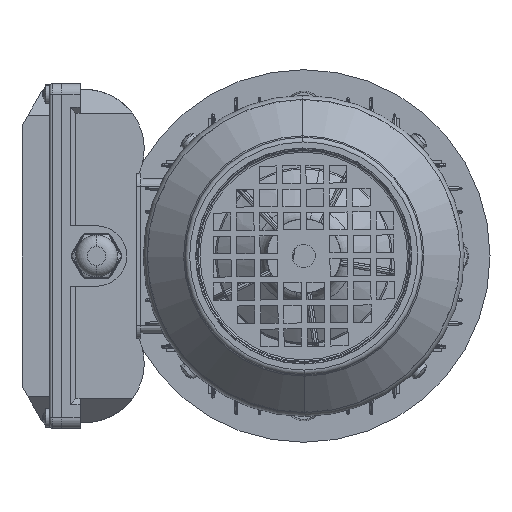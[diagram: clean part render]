
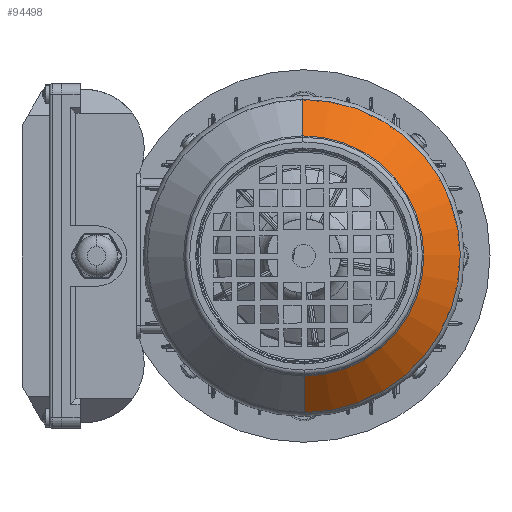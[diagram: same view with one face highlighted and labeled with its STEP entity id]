
A CAD part, left-side view. The second image highlights one B-rep face of the part: STEP entity #94498.
In plain terms, the highlighted conical face has half-angle 45 degrees and reference radius 51.586 mm.
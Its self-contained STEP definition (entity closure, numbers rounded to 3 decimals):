
#183 = EDGE_LOOP ( 'NONE', ( #42011, #35188, #23997, #37695 ) ) ;
#972 = CARTESIAN_POINT ( 'NONE',  ( 69.414, 0., 51.586 ) ) ;
#3485 = VERTEX_POINT ( 'NONE', #85109 ) ;
#3790 = DIRECTION ( 'NONE',  ( -1., 0., 0. ) ) ;
#4228 = DIRECTION ( 'NONE',  ( -1., 0., 0. ) ) ;
#5712 = VERTEX_POINT ( 'NONE', #90143 ) ;
#11128 = DIRECTION ( 'NONE',  ( -0.707, 0., 0.707 ) ) ;
#13077 = CARTESIAN_POINT ( 'NONE',  ( 69.414, 0., 0. ) ) ;
#14227 = EDGE_CURVE ( 'NONE', #5712, #128230, #51576, .T. ) ;
#15882 = CARTESIAN_POINT ( 'NONE',  ( 53.749, 0., 0. ) ) ;
#16610 = EDGE_CURVE ( 'NONE', #3485, #5712, #122531, .T. ) ;
#18457 = VECTOR ( 'NONE', #87482, 1000. ) ;
#23997 = ORIENTED_EDGE ( 'NONE', *, *, #32331, .T. ) ;
#25138 = DIRECTION ( 'NONE',  ( -1., 0., 0. ) ) ;
#32331 = EDGE_CURVE ( 'NONE', #63339, #128230, #55851, .T. ) ;
#35188 = ORIENTED_EDGE ( 'NONE', *, *, #66068, .T. ) ;
#37695 = ORIENTED_EDGE ( 'NONE', *, *, #14227, .F. ) ;
#38180 = CIRCLE ( 'NONE', #45463, 51.586 ) ;
#42011 = ORIENTED_EDGE ( 'NONE', *, *, #16610, .F. ) ;
#44299 = CARTESIAN_POINT ( 'NONE',  ( 69.414, 0., 0. ) ) ;
#45463 = AXIS2_PLACEMENT_3D ( 'NONE', #13077, #3790, #52323 ) ;
#48040 = CARTESIAN_POINT ( 'NONE',  ( 53.749, 0., 67.251 ) ) ;
#51576 = CIRCLE ( 'NONE', #123030, 67.251 ) ;
#51635 = AXIS2_PLACEMENT_3D ( 'NONE', #44299, #4228, #76995 ) ;
#52323 = DIRECTION ( 'NONE',  ( 0., 0., 1. ) ) ;
#54701 = DIRECTION ( 'NONE',  ( 0., 0., 1. ) ) ;
#55851 = LINE ( 'NONE', #972, #88992 ) ;
#63339 = VERTEX_POINT ( 'NONE', #108312 ) ;
#66068 = EDGE_CURVE ( 'NONE', #3485, #63339, #38180, .T. ) ;
#76410 = FACE_OUTER_BOUND ( 'NONE', #183, .T. ) ;
#76995 = DIRECTION ( 'NONE',  ( 0., 0., 1. ) ) ;
#85109 = CARTESIAN_POINT ( 'NONE',  ( 69.414, 0., -51.586 ) ) ;
#87482 = DIRECTION ( 'NONE',  ( -0.707, 0., -0.707 ) ) ;
#88992 = VECTOR ( 'NONE', #11128, 1000. ) ;
#90143 = CARTESIAN_POINT ( 'NONE',  ( 53.749, 0., -67.251 ) ) ;
#94498 = ADVANCED_FACE ( 'NONE', ( #76410 ), #106224, .T. ) ;
#106224 = CONICAL_SURFACE ( 'NONE', #51635, 51.586, 0.785 ) ;
#108312 = CARTESIAN_POINT ( 'NONE',  ( 69.414, 0., 51.586 ) ) ;
#117890 = CARTESIAN_POINT ( 'NONE',  ( 69.414, 0., -51.586 ) ) ;
#122531 = LINE ( 'NONE', #117890, #18457 ) ;
#123030 = AXIS2_PLACEMENT_3D ( 'NONE', #15882, #25138, #54701 ) ;
#128230 = VERTEX_POINT ( 'NONE', #48040 ) ;
